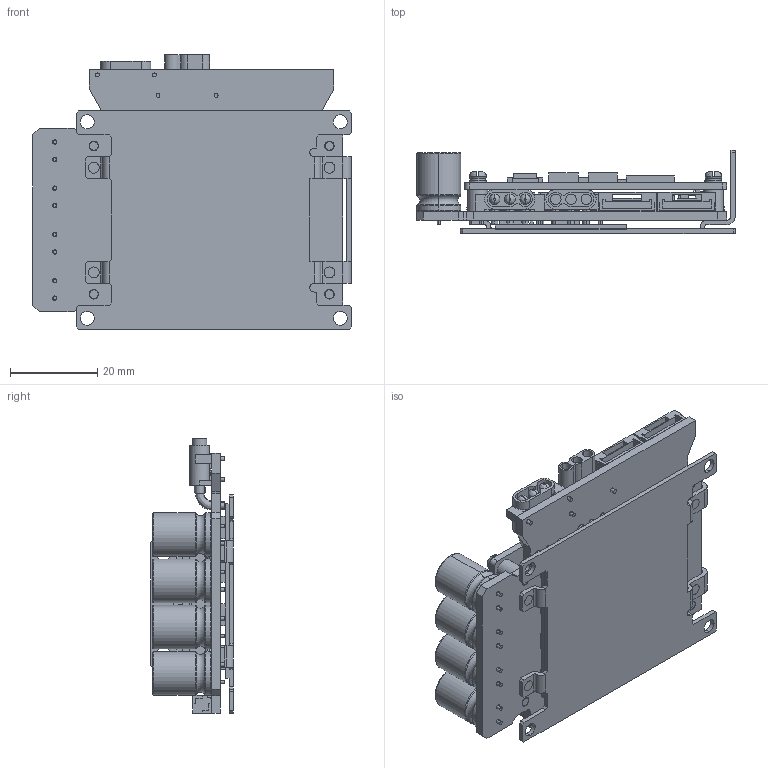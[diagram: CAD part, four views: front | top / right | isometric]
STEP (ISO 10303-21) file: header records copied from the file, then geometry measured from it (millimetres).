
FILE_DESCRIPTION((''),'2;1');
FILE_NAME('PRT0001','2020-10-14T',('PCBD'),(''),'PRO/ENGINEER BY PARAMETRIC TECHNOLOGY CORPORATION, 2010280','PRO/ENGINEER BY PARAMETRIC TECHNOLOGY CORPORATION, 2010280','');
FILE_SCHEMA(('CONFIG_CONTROL_DESIGN'));
Length unit declared in the file: millimetre
Products named in the file (1): PRT0001
Bounding box: 73 x 19 x 62.85 mm (x, y, z)
Volume: 23335.6 mm3; surface area: 29925.3 mm2
Topology: 1 solids, 25 shells, 1771 faces, 4832 edges, 3133 vertices
Faces by surface type: plane 1371, cylinder 286, torus 64, bspline 34, cone 16
Entity records: 56511 total; most frequent: CARTESIAN_POINT 11139, ORIENTED_EDGE 9616, DIRECTION 8880, EDGE_CURVE 4824, VECTOR 3916, LINE 3916, VERTEX_POINT 3133, AXIS2_PLACEMENT_3D 2482
